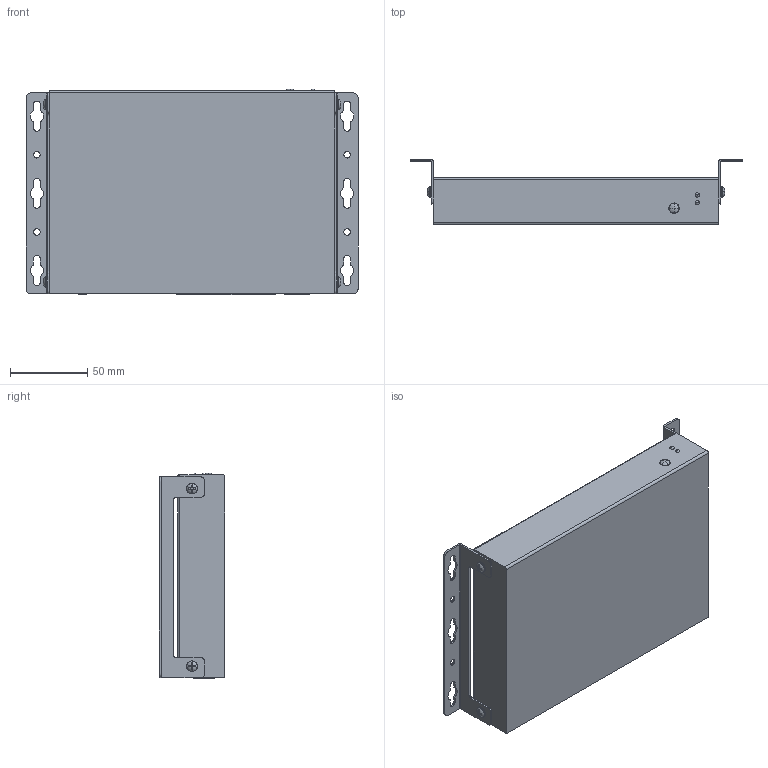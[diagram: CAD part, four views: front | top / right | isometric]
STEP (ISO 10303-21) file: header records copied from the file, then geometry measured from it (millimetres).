
FILE_DESCRIPTION (( 'STEP AP214' ), '1' );
FILE_NAME ('FG-901626-3D (under surface).STEP', '2026-02-26T18:00:10', ( '' ), ( '' ), 'SwSTEP 2.0', 'SolidWorks 2023', '' );
FILE_SCHEMA (( 'AUTOMOTIVE_DESIGN' ));
Length unit declared in the file: millimetre
Products named in the file (1): FG-901626-3D (under surface)
Bounding box: 215 x 42.46 x 133.37 mm (x, y, z)
Volume: 747604 mm3; surface area: 86433.7 mm2
Topology: 7 solids, 7 shells, 2305 faces, 4838 edges, 3209 vertices
Faces by surface type: cylinder 1384, plane 847, cone 40, torus 30, sphere 4
Entity records: 63893 total; most frequent: DIRECTION 12264, CARTESIAN_POINT 11319, ORIENTED_EDGE 9676, AXIS2_PLACEMENT_3D 5202, EDGE_CURVE 4838, VERTEX_POINT 3209, EDGE_LOOP 2987, CIRCLE 2896
